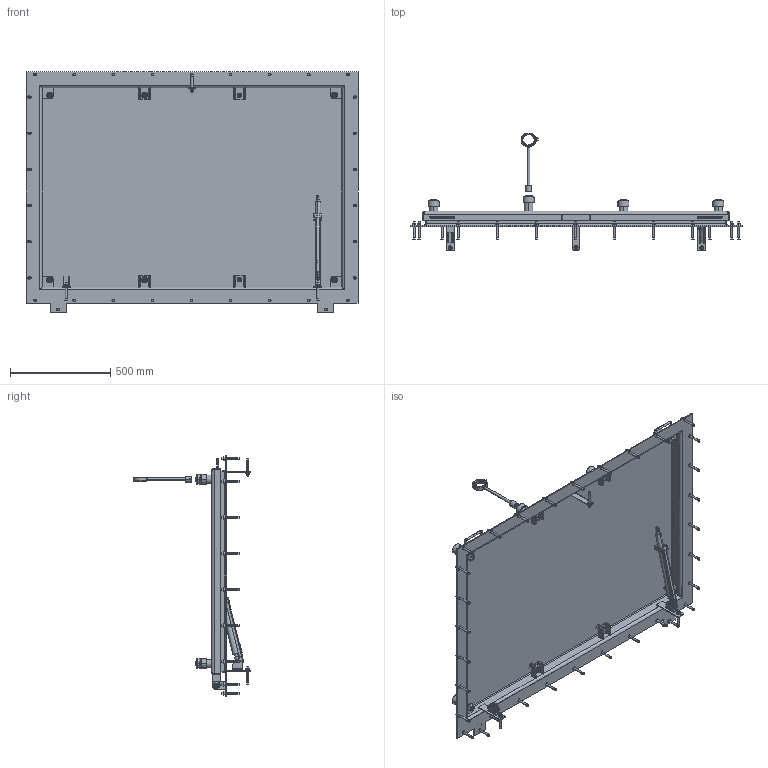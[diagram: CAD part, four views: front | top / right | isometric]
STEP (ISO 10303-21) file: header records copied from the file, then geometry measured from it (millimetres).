
FILE_DESCRIPTION((''),'2;1');
FILE_NAME('10041955-600','2018-02-09T',('gm'),('HUBER SE'),'PRO/ENGINEER BY PARAMETRIC TECHNOLOGY CORPORATION, 2015280','PRO/ENGINEER BY PARAMETRIC TECHNOLOGY CORPORATION, 2015280','');
FILE_SCHEMA(('CONFIG_CONTROL_DESIGN'));
Products named in the file (1): 10041955-600
Bounding box: 1655 x 586 x 1200 mm (x, y, z)
Volume: 15352955.6 mm3; surface area: 5500457.1 mm2
Topology: 10 solids, 10 shells, 2484 faces, 6035 edges, 3755 vertices
Faces by surface type: plane 1195, cylinder 677, cone 366, torus 100, bspline 66, sphere 48, extrusion 32
Entity records: 91152 total; most frequent: CARTESIAN_POINT 33169, DIRECTION 12256, ORIENTED_EDGE 11986, EDGE_CURVE 5993, AXIS2_PLACEMENT_3D 4872, VERTEX_POINT 3755, EDGE_LOOP 2800, VECTOR 2512
